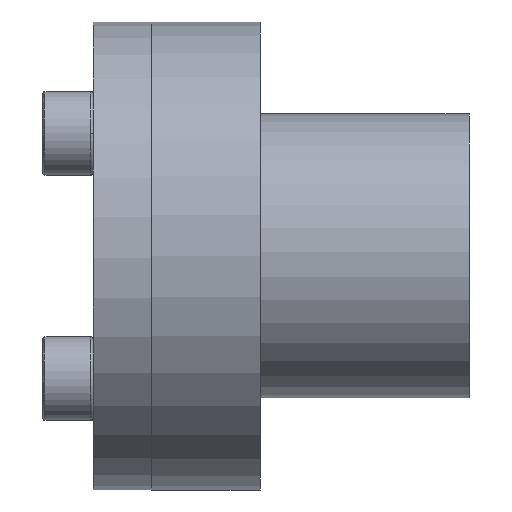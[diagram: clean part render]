
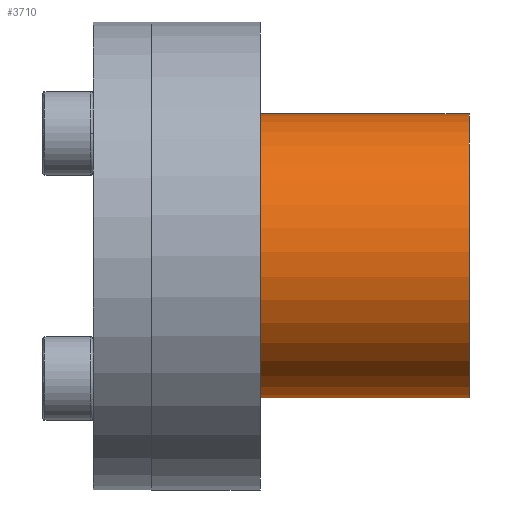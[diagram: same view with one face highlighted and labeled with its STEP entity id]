
A CAD part, front view. The second image highlights one B-rep face of the part: STEP entity #3710.
In plain terms, the highlighted cylindrical face has radius 17 mm (diameter 34 mm), a partial arc.
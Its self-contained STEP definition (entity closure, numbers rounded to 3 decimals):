
#58 = CARTESIAN_POINT ( 'NONE',  ( -23.443, -0.85, -16.979 ) ) ;
#65 = ORIENTED_EDGE ( 'NONE', *, *, #5494, .F. ) ;
#160 = VERTEX_POINT ( 'NONE', #445 ) ;
#269 = CARTESIAN_POINT ( 'NONE',  ( -22.5, 0., 0. ) ) ;
#445 = CARTESIAN_POINT ( 'NONE',  ( -2.5, 0., 17. ) ) ;
#625 = CARTESIAN_POINT ( 'NONE',  ( -22.5, 0., 17. ) ) ;
#935 = CARTESIAN_POINT ( 'NONE',  ( 22.5, -0.85, -16.979 ) ) ;
#993 = CARTESIAN_POINT ( 'NONE',  ( -2.5, 0., 0. ) ) ;
#1069 = CIRCLE ( 'NONE', #2421, 17. ) ;
#1173 = AXIS2_PLACEMENT_3D ( 'NONE', #269, #2841, #1984 ) ;
#1209 = CARTESIAN_POINT ( 'NONE',  ( 22.5, 0., 0. ) ) ;
#1436 = DIRECTION ( 'NONE',  ( 0., 0., 1. ) ) ;
#1448 = CARTESIAN_POINT ( 'NONE',  ( -2.5, -0.85, -16.979 ) ) ;
#1538 = CYLINDRICAL_SURFACE ( 'NONE', #1173, 17. ) ;
#1599 = ORIENTED_EDGE ( 'NONE', *, *, #3569, .F. ) ;
#1628 = DIRECTION ( 'NONE',  ( 0., 0., 1. ) ) ;
#1773 = DIRECTION ( 'NONE',  ( 1., 0., 0. ) ) ;
#1890 = DIRECTION ( 'NONE',  ( -1., 0., 0. ) ) ;
#1984 = DIRECTION ( 'NONE',  ( 0., 0., 1. ) ) ;
#2421 = AXIS2_PLACEMENT_3D ( 'NONE', #993, #3977, #1436 ) ;
#2609 = ORIENTED_EDGE ( 'NONE', *, *, #2970, .F. ) ;
#2682 = VECTOR ( 'NONE', #1890, 1000. ) ;
#2729 = EDGE_CURVE ( 'NONE', #2777, #4569, #3733, .T. ) ;
#2777 = VERTEX_POINT ( 'NONE', #4699 ) ;
#2841 = DIRECTION ( 'NONE',  ( -1., 0., 0. ) ) ;
#2970 = EDGE_CURVE ( 'NONE', #2777, #160, #3672, .T. ) ;
#2980 = VECTOR ( 'NONE', #1773, 1000. ) ;
#3323 = EDGE_LOOP ( 'NONE', ( #2609, #4417, #65, #1599 ) ) ;
#3569 = EDGE_CURVE ( 'NONE', #160, #3597, #1069, .T. ) ;
#3597 = VERTEX_POINT ( 'NONE', #1448 ) ;
#3672 = LINE ( 'NONE', #625, #2682 ) ;
#3710 = ADVANCED_FACE ( 'NONE', ( #5467 ), #1538, .F. ) ;
#3733 = CIRCLE ( 'NONE', #4765, 17. ) ;
#3977 = DIRECTION ( 'NONE',  ( 1., 0., 0. ) ) ;
#4116 = LINE ( 'NONE', #58, #2980 ) ;
#4181 = DIRECTION ( 'NONE',  ( 1., 0., 0. ) ) ;
#4417 = ORIENTED_EDGE ( 'NONE', *, *, #2729, .T. ) ;
#4569 = VERTEX_POINT ( 'NONE', #935 ) ;
#4699 = CARTESIAN_POINT ( 'NONE',  ( 22.5, 0., 17. ) ) ;
#4765 = AXIS2_PLACEMENT_3D ( 'NONE', #1209, #4181, #1628 ) ;
#5467 = FACE_OUTER_BOUND ( 'NONE', #3323, .T. ) ;
#5494 = EDGE_CURVE ( 'NONE', #3597, #4569, #4116, .T. ) ;
